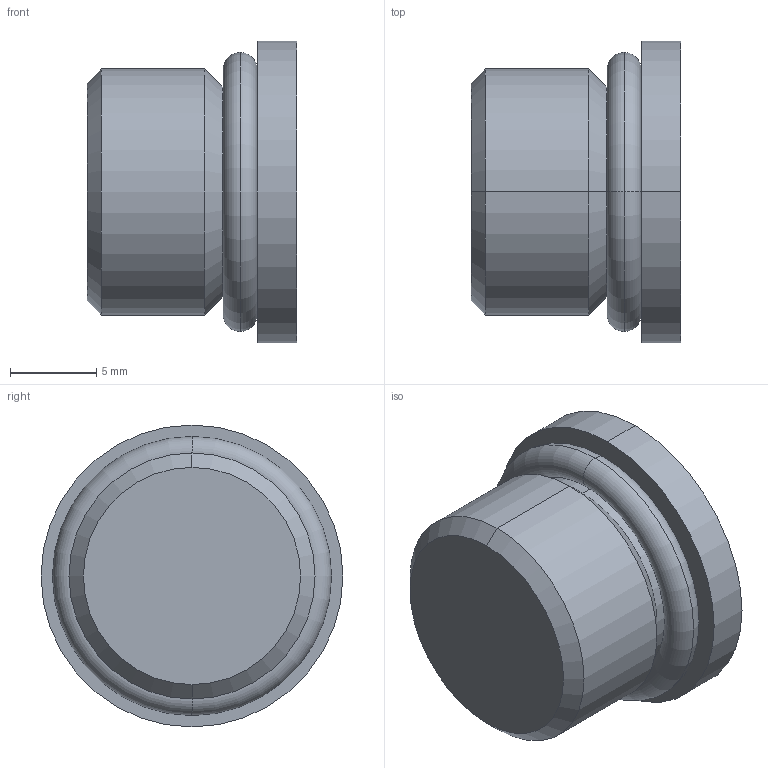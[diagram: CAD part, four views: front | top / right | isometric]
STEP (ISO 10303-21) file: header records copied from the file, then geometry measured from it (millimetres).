
FILE_DESCRIPTION(('starvars output'),'2;1');
FILE_NAME('cv20240801100053000037572.stp','10:00:53 2024/08/01',( 'Thomas Industrial Network Germany GmbH'),( 'Thomas Industrial Network Germany GmbH'),'unknown preprocess','ACIS' ,'unknown authorization');
FILE_SCHEMA(('AUTOMOTIVE_DESIGN_CC2 {UNKNOWN IMPLEMENTATION LEVEL}'));
Length unit declared in the file: millimetre
Products named in the file (1): PRODUCT_ID_1
Bounding box: 12.19 x 17.53 x 17.53 mm (x, y, z)
Volume: 1947.4 mm3; surface area: 1473.3 mm2
Topology: 2 solids, 2 shells, 33 faces, 72 edges, 41 vertices
Faces by surface type: plane 15, cylinder 8, cone 6, torus 4
Entity records: 1037 total; most frequent: ORIENTED_EDGE 140, CARTESIAN_POINT 106, DIRECTION 98, EDGE_CURVE 70, VERTEX_POINT 41, EDGE_LOOP 35, FACE_BOUND 35, AXIS2_PLACEMENT_3D 33
